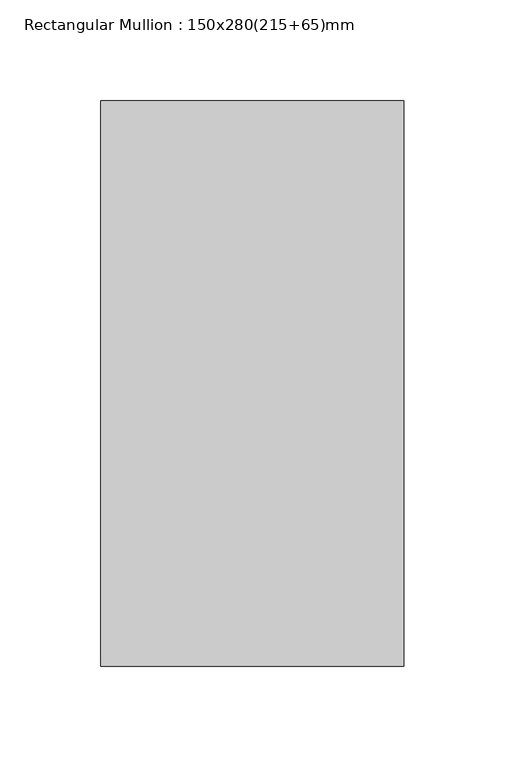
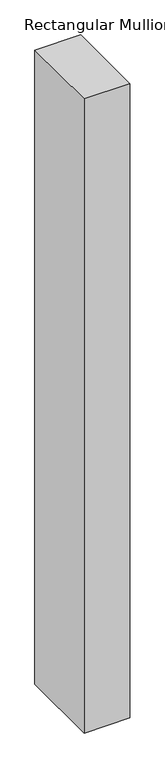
"""IFC4 building model written with IfcOpenShell, lengths in millimetres: member geometry, Rectangular Mullion : 150x280(215+65)mm."""

from ifc_helpers import new_model, si_unit, frame, origin, place, context, project, spatial, polyline, outline, extrude, source, transform, mapped, element, save


def rectangular_mullion_150x280_215_65_mm_68c2e634(model_context):
    return source(origin(), model_context, "Body", "SweptSolid", [
        extrude(outline(polyline([(75.0, 65.0), (75.0, -215.0), (-75.0, -215.0), (-75.0, 65.0), (75.0, 65.0)])), frame((0.0, 0.0, -2200.0), z_axis=(0.0, 0.0, 1.0), x_axis=(1.0, 0.0, 0.0)), (0.0, 0.0, 1.0), 2200.0),
    ])


if __name__ == "__main__":
    model = new_model("IFC4")
    model_context = context("Model", 3, world=origin())
    ifc_project = project(units=[si_unit("LENGTHUNIT", "METRE", prefix="MILLI")], contexts=[model_context])
    site = spatial("IfcSite", under=ifc_project)
    building = spatial("IfcBuilding", under=site)
    placement = place(None, origin())
    rectangular_mullion_150x280_215_65_mm_shape = rectangular_mullion_150x280_215_65_mm_68c2e634(model_context)
    element("IfcMember", 1, ObjectType="Rectangular Mullion : 150x280(215+65)mm", at=placement, inside=building, context=model_context, shape_type="MappedRepresentation", body=[
        mapped(rectangular_mullion_150x280_215_65_mm_shape, transform((0.0, 0.0, 0.0), x_axis=(1.0, 0.0, 0.0), y_axis=(0.0, 1.0, 0.0), z_axis=(0.0, 0.0, 1.0))),
    ])
    save(model, "model.ifc")
